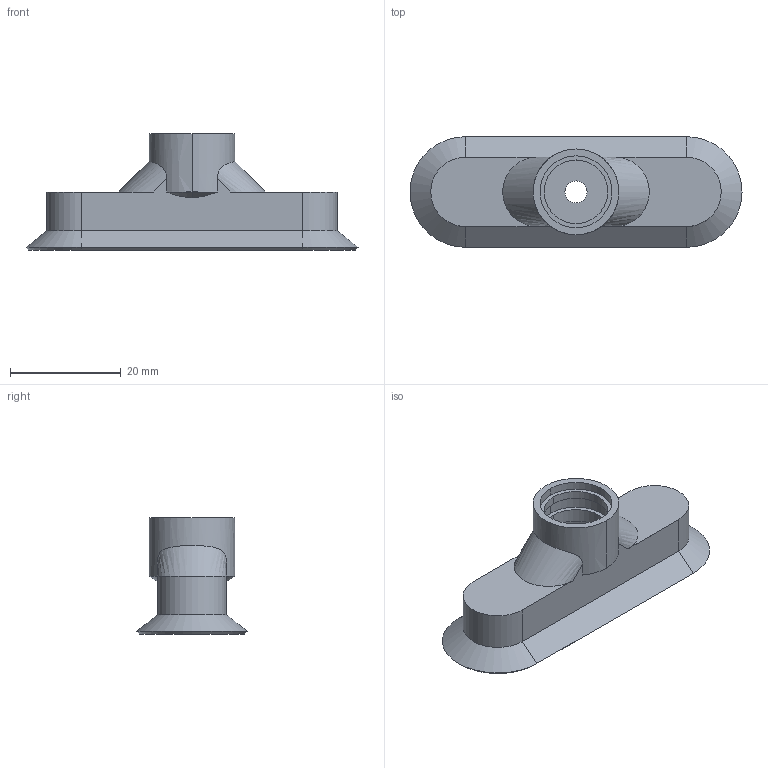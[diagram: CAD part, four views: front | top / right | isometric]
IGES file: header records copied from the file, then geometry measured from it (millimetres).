
Start section: 3D InterOp IGES (v. 2018 1.0.2), Spatial Corp. Copyright (c) 1999-2017.
Global section: file name: schmalz_10_01_05_00154_9shv1ho7lz7wph6haaea8jumm.igs; native system: Spatial Corp.; preprocessor: 3D InterOp ACIS/IGES; author: TraceParts; organization: TraceParts S.A.; date: 20181122.090101; units: millimetre
Bounding box: 60 x 20 x 21 mm (x, y, z)
Surface area: 4385 mm2 (no closed solid volume)
Topology: 0 solids, 0 shells, 45 faces, 276 edges, 276 vertices
Faces by surface type: revolution 26, extrusion 17, bspline 2
